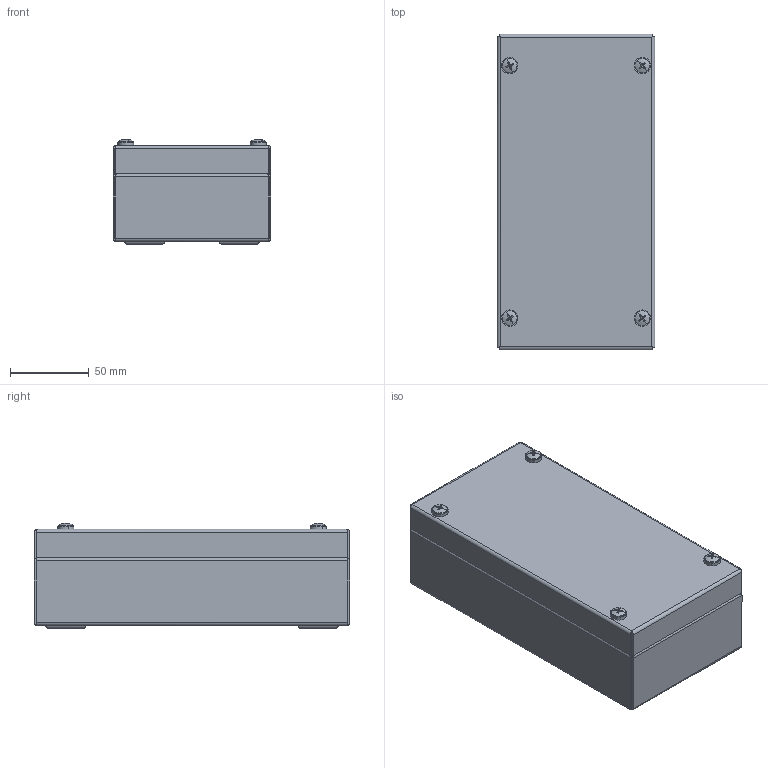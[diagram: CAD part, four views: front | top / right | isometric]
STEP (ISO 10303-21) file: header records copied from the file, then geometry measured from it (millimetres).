
FILE_DESCRIPTION (( 'STEP AP203' ), '1' );
FILE_NAME ('SS JB-200 x 100 x 61-ASSEMBLY.STEP', '2020-03-13T10:20:48', ( '' ), ( '' ), 'SwSTEP 2.0', 'SolidWorks 2018', '' );
FILE_SCHEMA (( 'CONFIG_CONTROL_DESIGN' ));
Length unit declared in the file: millimetre
Products named in the file (8): PLASTIC INSERT FOR FABRICATED ENCLOSURE; SS JB-200 x 100 x 61-BASE_200 x 100 x 61; Gasket SS Box 200x100x61; SS JB-200 x 100 x 61-ASSEMBLY; M5 BLIND NUTSERT; Dinral Mounting Channel-100; M5X33 LID SCREW; SS JB-200 x 100 x 61-LID_200 x 100 x 61
Assembly tree (17 placements, depth 2):
  SS JB-200 x 100 x 61-ASSEMBLY
    SS JB-200 x 100 x 61-BASE_200 x 100 x 61
    Dinral Mounting Channel-100  x2
    SS JB-200 x 100 x 61-LID_200 x 100 x 61
    Gasket SS Box 200x100x61
    PLASTIC INSERT FOR FABRICATED ENCLOSURE  x4
    M5 BLIND NUTSERT  x4
    M5X33 LID SCREW  x4
Bounding box: 100 x 200 x 66.81 mm (x, y, z)
Volume: 159856.1 mm3; surface area: 211153.2 mm2
Topology: 17 solids, 17 shells, 709 faces, 1678 edges, 1036 vertices
Faces by surface type: cylinder 290, plane 275, cone 104, bspline 32, sphere 8
Entity records: 15060 total; most frequent: CARTESIAN_POINT 4883, ORIENTED_EDGE 1920, DIRECTION 1761, EDGE_CURVE 960, AXIS2_PLACEMENT_3D 593, VERTEX_POINT 578, VECTOR 575, LINE 575
